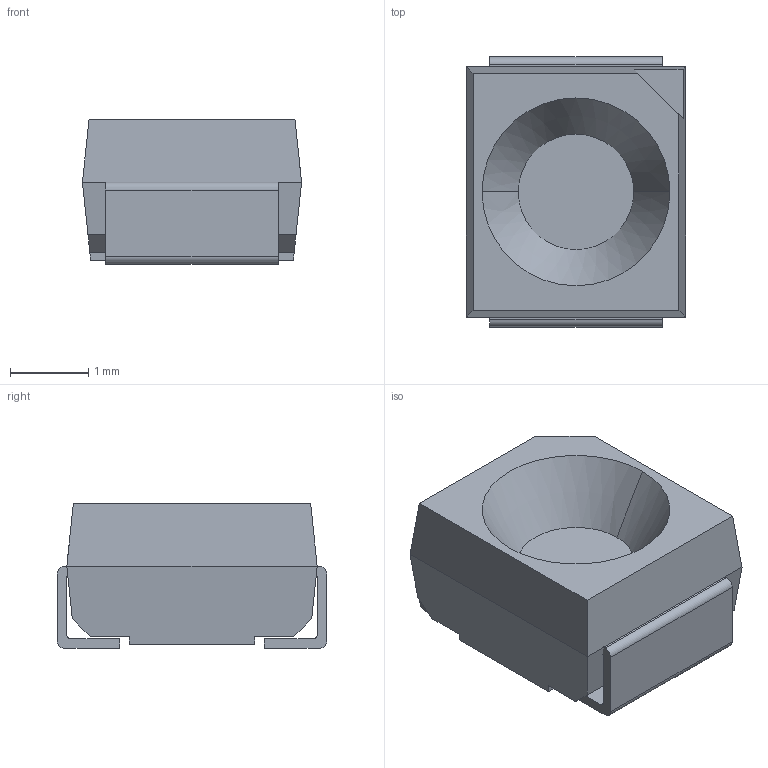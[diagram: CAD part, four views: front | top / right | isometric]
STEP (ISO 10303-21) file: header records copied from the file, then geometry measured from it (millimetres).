
FILE_DESCRIPTION(('STEP AP203'),'1');
FILE_NAME('Z:/3D Model/3D Model/Checked/DDW-HZKG/DDW-HZKG.stp','2018-03-29T05:37:03',(' '),(' '),'Spatial InterOp 3D',' ',' ');
FILE_SCHEMA(('CONFIG_CONTROL_DESIGN'));
Length unit declared in the file: millimetre
Products named in the file (2): 1; 2
Bounding box: 2.8 x 3.45 x 1.85 mm (x, y, z)
Volume: 13.9 mm3; surface area: 69.7 mm2
Topology: 2 solids, 2 shells, 47 faces, 116 edges, 76 vertices
Faces by surface type: plane 35, revolution 6, cylinder 4, cone 2
Entity records: 1482 total; most frequent: CARTESIAN_POINT 253, DIRECTION 232, ORIENTED_EDGE 232, EDGE_CURVE 116, LINE 92, VECTOR 92, VERTEX_POINT 76, AXIS2_PLACEMENT_3D 67
